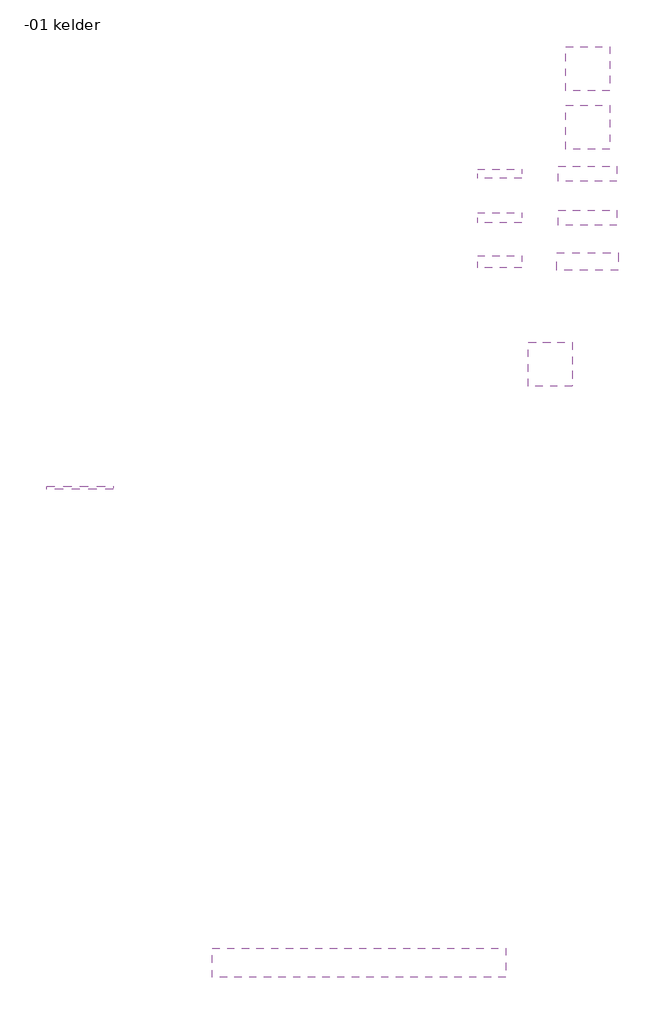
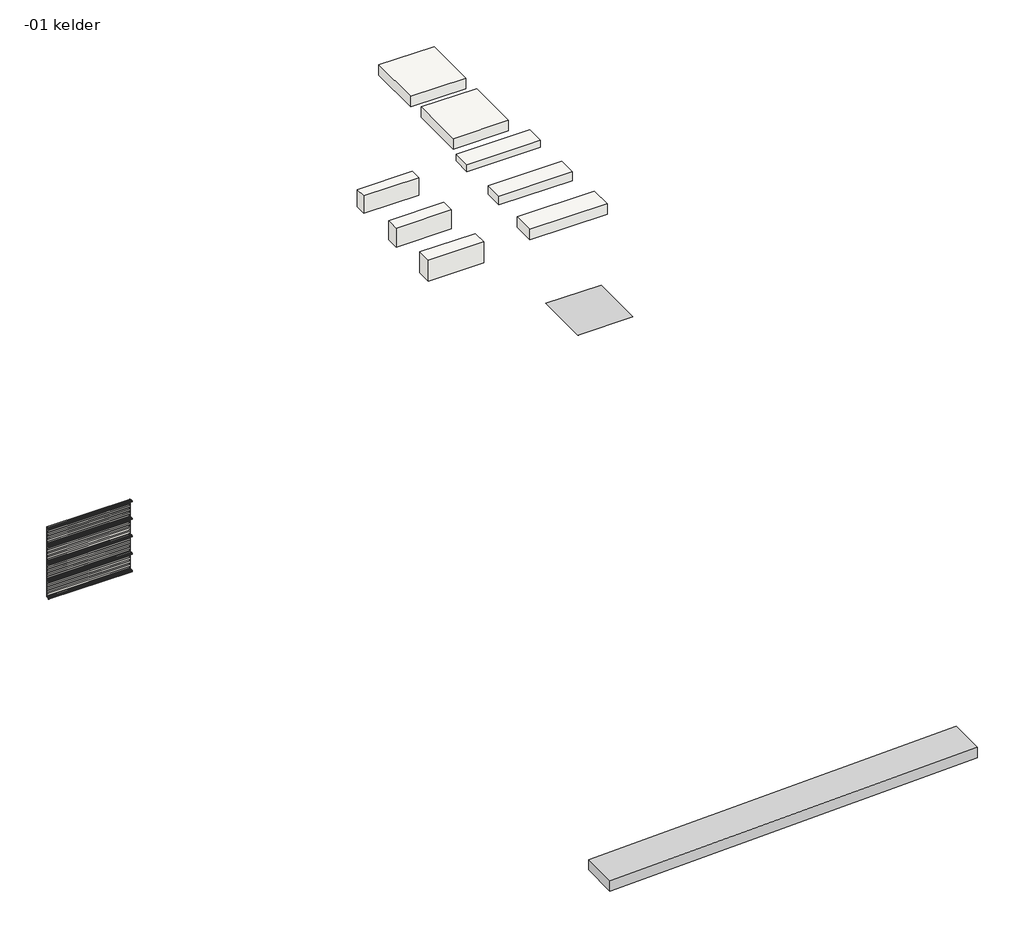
# One storey: 8 slabs, 2 proxies, 1 ramp, 1 wall.
"""IFC4 building model written with IfcOpenShell, lengths in millimetres."""

from ifc_helpers import new_model, si_unit, origin, place, context, project, spatial, triangles, transform, mapped, element, save
from components import ramp_5bd644cd, slab_58631cd3, slab_67891fc0, slab_c038d841, slab_bb70ff76, slab_6829c25e, slab_69df2931, slab_09eaf054, slab_122715aa, wall_1cc3ae2e

model = new_model("IFC4")

# Units and contexts
model_context = context("Model", 3, world=origin())
ifc_project = project(units=[si_unit("LENGTHUNIT", "METRE", prefix="MILLI")], contexts=[model_context])

# Site, building, storey
site = spatial("IfcSite", under=ifc_project)
building = spatial("IfcBuilding", under=site)
storey = spatial("IfcBuildingStorey", under=building, Name="-01 kelder", Elevation=-3000.0)

# Proxies
placement = place(None, origin())
element("IfcBuildingElementProxy", 1, Name="Building Element Proxy", at=placement, inside=storey, context=model_context, shape_type="Tessellation", body=[
    triangles([(28413.3470764, -11995.0003967, -300.1595311), (28413.3470764, -13494.9995361, -300.1595311), (29913.3485413, -13494.9995361, -300.1595311), (29913.3485413, -11995.0003967, -300.1595311)], [[1, 2, 3], [3, 4, 1]], closed=False),
])
element("IfcBuildingElementProxy", 2, Name="Building Element Proxy", at=placement, inside=storey, context=model_context, shape_type="Tessellation", body=[
    triangles([(29913.3485413, -13494.9995361, -300.1595311), (29913.3485413, -13461.4004242, -300.1595311), (29913.3485413, -11995.0003967, -300.1595311), (28439.5780334, -11995.0003967, -300.1595311), (28413.3470764, -11995.0003967, -300.1595311), (28413.3470764, -13494.9995361, -300.1595311)], [[6, 4, 5], [4, 6, 2], [2, 3, 4], [1, 2, 6]], closed=False),
])

# Ramp
ramp_shape = ramp_5bd644cd(model_context)
element("IfcRamp", 3, ObjectType="Ramp:24_RA_hellingbaan_beton_prefab_300:77835:1 : Ramp:24_RA_hellingbaan_beton_prefab_300:77835:1", at=placement, inside=storey, context=model_context, shape_type="MappedRepresentation", body=[
    mapped(ramp_shape, transform((0.0, 0.0, 0.0), x_axis=(1.0, 0.0, 0.0), y_axis=(0.0, 1.0, 0.0), z_axis=(0.0, 0.0, 1.0))),
])

# Slabs
slab_shape = slab_58631cd3(model_context)
element("IfcSlab", 4, ObjectType="Wall Foundation:16_SFO_ihwg beton_C30-35_500x200:317217 : Wall Foundation:16_SFO_ihwg beton_C30-35_500x200:317217", at=placement, inside=storey, context=model_context, shape_type="MappedRepresentation", body=[
    mapped(slab_shape, transform((0.0, 0.0, 0.0), x_axis=(1.0, 0.0, 0.0), y_axis=(0.0, 1.0, 0.0), z_axis=(0.0, 0.0, 1.0))),
])
slab_2_shape = slab_67891fc0(model_context)
element("IfcSlab", 5, ObjectType="Wall Foundation:16_SFO_ihwg beton_C30-35_500x250:317290 : Wall Foundation:16_SFO_ihwg beton_C30-35_500x250:317290", at=placement, inside=storey, context=model_context, shape_type="MappedRepresentation", body=[
    mapped(slab_2_shape, transform((0.0, 0.0, 0.0), x_axis=(1.0, 0.0, 0.0), y_axis=(0.0, 1.0, 0.0), z_axis=(0.0, 0.0, 1.0))),
])
slab_3_shape = slab_c038d841(model_context)
element("IfcSlab", 6, ObjectType="Wall Foundation:16_SFO_ihwg beton_C30-35_600x300:317374 : Wall Foundation:16_SFO_ihwg beton_C30-35_600x300:317374", at=placement, inside=storey, context=model_context, shape_type="MappedRepresentation", body=[
    mapped(slab_3_shape, transform((0.0, 0.0, 0.0), x_axis=(1.0, 0.0, 0.0), y_axis=(0.0, 1.0, 0.0), z_axis=(0.0, 0.0, 1.0))),
])
slab_4_shape = slab_bb70ff76(model_context)
element("IfcSlab", 7, ObjectType="Wall Foundation:16_SFO_prefab beton_C35-45_300x500:317420 : Wall Foundation:16_SFO_prefab beton_C35-45_300x500:317420", at=placement, inside=storey, context=model_context, shape_type="MappedRepresentation", body=[
    mapped(slab_4_shape, transform((0.0, 0.0, 0.0), x_axis=(1.0, 0.0, 0.0), y_axis=(0.0, 1.0, 0.0), z_axis=(0.0, 0.0, 1.0))),
])
slab_5_shape = slab_6829c25e(model_context)
element("IfcSlab", 8, ObjectType="Wall Foundation:16_SFO_prefab beton_C35-45_350x550:317423 : Wall Foundation:16_SFO_prefab beton_C35-45_350x550:317423", at=placement, inside=storey, context=model_context, shape_type="MappedRepresentation", body=[
    mapped(slab_5_shape, transform((0.0, 0.0, 0.0), x_axis=(1.0, 0.0, 0.0), y_axis=(0.0, 1.0, 0.0), z_axis=(0.0, 0.0, 1.0))),
])
slab_6_shape = slab_69df2931(model_context)
element("IfcSlab", 9, ObjectType="Wall Foundation:16_SFO_prefab beton_C35-45_400x600:317426 : Wall Foundation:16_SFO_prefab beton_C35-45_400x600:317426", at=placement, inside=storey, context=model_context, shape_type="MappedRepresentation", body=[
    mapped(slab_6_shape, transform((0.0, 0.0, 0.0), x_axis=(1.0, 0.0, 0.0), y_axis=(0.0, 1.0, 0.0), z_axis=(0.0, 0.0, 1.0))),
])
slab_7_shape = slab_09eaf054(model_context)
element("IfcSlab", 10, ObjectType="Foundation Slab:16_SFO_funderingsplaat_beton_generiek_300:67787 : Foundation Slab:16_SFO_funderingsplaat_beton_generiek_300:67787", at=placement, inside=storey, context=model_context, shape_type="MappedRepresentation", body=[
    mapped(slab_7_shape, transform((0.0, 0.0, 0.0), x_axis=(1.0, 0.0, 0.0), y_axis=(0.0, 1.0, 0.0), z_axis=(0.0, 0.0, 1.0))),
])
slab_8_shape = slab_122715aa(model_context)
element("IfcSlab", 11, ObjectType="Foundation Slab:16_SFO_funderingsplaat_ihwg_beton_C30/37:68150 : Foundation Slab:16_SFO_funderingsplaat_ihwg_beton_C30/37:68150", at=placement, inside=storey, context=model_context, shape_type="MappedRepresentation", body=[
    mapped(slab_8_shape, transform((0.0, 0.0, 0.0), x_axis=(1.0, 0.0, 0.0), y_axis=(0.0, 1.0, 0.0), z_axis=(0.0, 0.0, 1.0))),
])

# Wall
wall_shape = wall_1cc3ae2e(model_context)
element("IfcWall", 12, ObjectType="Curtain Wall:21_CW_binnendoos_SAB90_500:160824 : Curtain Wall:21_CW_binnendoos_SAB90_500:160824", at=placement, inside=storey, context=model_context, shape_type="MappedRepresentation", body=[
    mapped(wall_shape, transform((0.0, 0.0, 0.0), x_axis=(1.0, 0.0, 0.0), y_axis=(0.0, 1.0, 0.0), z_axis=(0.0, 0.0, 1.0))),
])

save(model, "model.ifc")
